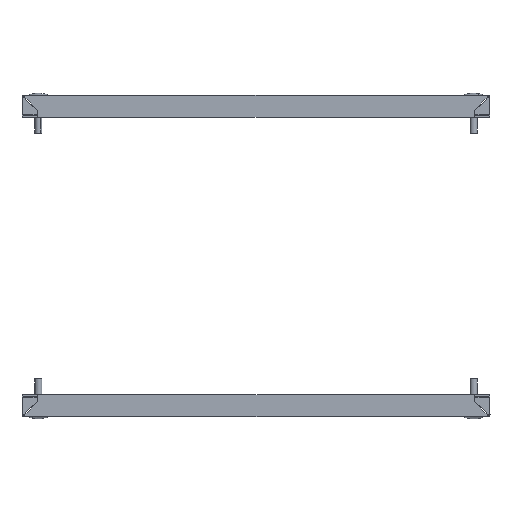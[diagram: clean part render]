
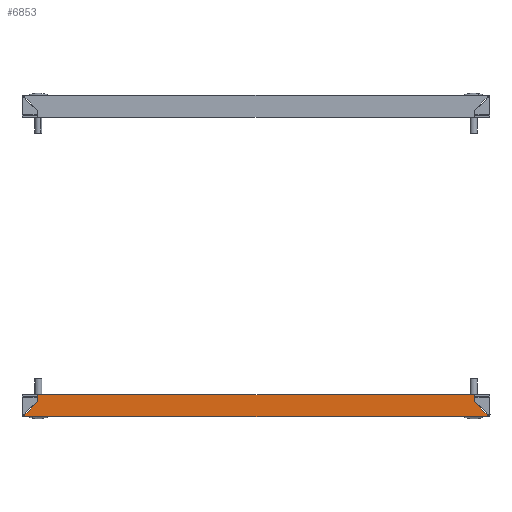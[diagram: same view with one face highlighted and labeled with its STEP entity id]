
A CAD part, front view. The second image highlights one B-rep face of the part: STEP entity #6853.
In plain terms, the highlighted planar face has unit normal (0, -1, 0).
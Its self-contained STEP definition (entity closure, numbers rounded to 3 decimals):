
#5 = LINE ( 'NONE', #2338, #2668 ) ;
#69 = CARTESIAN_POINT ( 'NONE',  ( 197.723, -50., -1.5 ) ) ;
#211 = B_SPLINE_CURVE_WITH_KNOTS ( 'NONE', 3,
 ( #5418, #879, #2408, #6869, #3920, #69 ),
 .UNSPECIFIED., .F., .F.,
 ( 4, 2, 4 ),
 ( 0.005, 0.006, 0.008 ),
 .UNSPECIFIED. ) ;
#409 = CARTESIAN_POINT ( 'NONE',  ( -197.723, -50., -1.5 ) ) ;
#633 = LINE ( 'NONE', #4580, #1160 ) ;
#832 = ORIENTED_EDGE ( 'NONE', *, *, #6581, .T. ) ;
#858 = FACE_OUTER_BOUND ( 'NONE', #5615, .T. ) ;
#879 = CARTESIAN_POINT ( 'NONE',  ( 197.584, -50., 0.251 ) ) ;
#956 = CARTESIAN_POINT ( 'NONE',  ( -186.5, -50., 17.5 ) ) ;
#1143 = LINE ( 'NONE', #5805, #2426 ) ;
#1160 = VECTOR ( 'NONE', #8335, 1000. ) ;
#1261 = VERTEX_POINT ( 'NONE', #4365 ) ;
#1431 = ORIENTED_EDGE ( 'NONE', *, *, #3511, .F. ) ;
#1445 = ORIENTED_EDGE ( 'NONE', *, *, #4726, .T. ) ;
#1659 = VECTOR ( 'NONE', #2333, 1000. ) ;
#1841 = B_SPLINE_CURVE_WITH_KNOTS ( 'NONE', 3,
 ( #2854, #9615, #5738, #2756, #2801, #409 ),
 .UNSPECIFIED., .F., .F.,
 ( 4, 2, 4 ),
 ( 0.005, 0.006, 0.008 ),
 .UNSPECIFIED. ) ;
#2207 = DIRECTION ( 'NONE',  ( 0., 0., -1. ) ) ;
#2211 = CARTESIAN_POINT ( 'NONE',  ( 186.5, -50., 11.646 ) ) ;
#2244 = VERTEX_POINT ( 'NONE', #2938 ) ;
#2333 = DIRECTION ( 'NONE',  ( 1., 0., 0. ) ) ;
#2338 = CARTESIAN_POINT ( 'NONE',  ( -82.084, -50., 280.23 ) ) ;
#2408 = CARTESIAN_POINT ( 'NONE',  ( 197.621, -50., -0.099 ) ) ;
#2426 = VECTOR ( 'NONE', #9593, 1000. ) ;
#2495 = VERTEX_POINT ( 'NONE', #8340 ) ;
#2668 = VECTOR ( 'NONE', #5984, 1000. ) ;
#2756 = CARTESIAN_POINT ( 'NONE',  ( -197.681, -50., -0.799 ) ) ;
#2801 = CARTESIAN_POINT ( 'NONE',  ( -197.704, -50., -1.149 ) ) ;
#2854 = CARTESIAN_POINT ( 'NONE',  ( -197.546, -50., 0.6 ) ) ;
#2938 = CARTESIAN_POINT ( 'NONE',  ( -186.5, -50., 11.646 ) ) ;
#3016 = VERTEX_POINT ( 'NONE', #956 ) ;
#3088 = VERTEX_POINT ( 'NONE', #3346 ) ;
#3125 = ORIENTED_EDGE ( 'NONE', *, *, #5785, .T. ) ;
#3346 = CARTESIAN_POINT ( 'NONE',  ( -197.546, -50., 0.6 ) ) ;
#3511 = EDGE_CURVE ( 'NONE', #3088, #2244, #1143, .T. ) ;
#3690 = EDGE_CURVE ( 'NONE', #5441, #6654, #7592, .T. ) ;
#3720 = ORIENTED_EDGE ( 'NONE', *, *, #8268, .T. ) ;
#3920 = CARTESIAN_POINT ( 'NONE',  ( 197.704, -50., -1.149 ) ) ;
#4052 = CARTESIAN_POINT ( 'NONE',  ( 186.5, -50., 11.646 ) ) ;
#4365 = CARTESIAN_POINT ( 'NONE',  ( -197.723, -50., -1.5 ) ) ;
#4372 = ORIENTED_EDGE ( 'NONE', *, *, #8478, .F. ) ;
#4484 = LINE ( 'NONE', #7537, #5830 ) ;
#4580 = CARTESIAN_POINT ( 'NONE',  ( 0., -50., 17.5 ) ) ;
#4697 = DIRECTION ( 'NONE',  ( 0., 1., 0. ) ) ;
#4726 = EDGE_CURVE ( 'NONE', #6654, #3016, #633, .T. ) ;
#4859 = EDGE_CURVE ( 'NONE', #2495, #7397, #211, .T. ) ;
#5418 = CARTESIAN_POINT ( 'NONE',  ( 197.546, -50., 0.6 ) ) ;
#5441 = VERTEX_POINT ( 'NONE', #4052 ) ;
#5615 = EDGE_LOOP ( 'NONE', ( #4372, #7702, #1445, #832, #1431, #3720, #3125, #8910 ) ) ;
#5738 = CARTESIAN_POINT ( 'NONE',  ( -197.621, -50., -0.099 ) ) ;
#5785 = EDGE_CURVE ( 'NONE', #1261, #7397, #9207, .T. ) ;
#5805 = CARTESIAN_POINT ( 'NONE',  ( -197.546, -50., 0.6 ) ) ;
#5830 = VECTOR ( 'NONE', #2207, 1000. ) ;
#5943 = CARTESIAN_POINT ( 'NONE',  ( 197.723, -50., -1.5 ) ) ;
#5984 = DIRECTION ( 'NONE',  ( 0.707, 0., -0.707 ) ) ;
#6581 = EDGE_CURVE ( 'NONE', #3016, #2244, #4484, .T. ) ;
#6654 = VERTEX_POINT ( 'NONE', #9567 ) ;
#6853 = ADVANCED_FACE ( 'NONE', ( #858 ), #6944, .F. ) ;
#6869 = CARTESIAN_POINT ( 'NONE',  ( 197.681, -50., -0.799 ) ) ;
#6944 = PLANE ( 'NONE',  #8272 ) ;
#7256 = VECTOR ( 'NONE', #8438, 1000. ) ;
#7397 = VERTEX_POINT ( 'NONE', #5943 ) ;
#7537 = CARTESIAN_POINT ( 'NONE',  ( -186.5, -50., 11.646 ) ) ;
#7592 = LINE ( 'NONE', #2211, #7256 ) ;
#7702 = ORIENTED_EDGE ( 'NONE', *, *, #3690, .T. ) ;
#7751 = CARTESIAN_POINT ( 'NONE',  ( 0., -50., 0. ) ) ;
#8268 = EDGE_CURVE ( 'NONE', #3088, #1261, #1841, .T. ) ;
#8272 = AXIS2_PLACEMENT_3D ( 'NONE', #7751, #4697, #8505 ) ;
#8335 = DIRECTION ( 'NONE',  ( -1., 0., 0. ) ) ;
#8340 = CARTESIAN_POINT ( 'NONE',  ( 197.546, -50., 0.6 ) ) ;
#8438 = DIRECTION ( 'NONE',  ( 0., 0., 1. ) ) ;
#8478 = EDGE_CURVE ( 'NONE', #5441, #2495, #5, .T. ) ;
#8505 = DIRECTION ( 'NONE',  ( 0., 0., 1. ) ) ;
#8910 = ORIENTED_EDGE ( 'NONE', *, *, #4859, .F. ) ;
#9207 = LINE ( 'NONE', #9917, #1659 ) ;
#9567 = CARTESIAN_POINT ( 'NONE',  ( 186.5, -50., 17.5 ) ) ;
#9593 = DIRECTION ( 'NONE',  ( 0.707, 0., 0.707 ) ) ;
#9615 = CARTESIAN_POINT ( 'NONE',  ( -197.584, -50., 0.251 ) ) ;
#9917 = CARTESIAN_POINT ( 'NONE',  ( 0., -50., -1.5 ) ) ;
